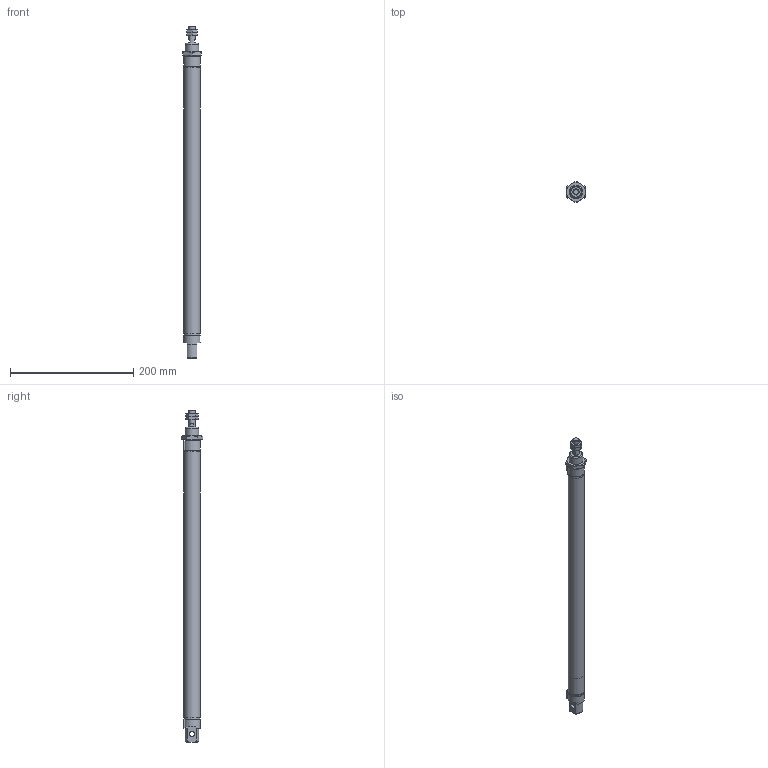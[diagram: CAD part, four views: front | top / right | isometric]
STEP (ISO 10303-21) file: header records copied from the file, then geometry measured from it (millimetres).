
FILE_DESCRIPTION( ( 'STEP AP214' ), '1' );
FILE_NAME( 'p:/temp/worker_14/temp/app_90_02018091616595351328055192d056f_000000_00_00_000000/format_0/MCMI-11-25-400(0_0).stp', '2018-09-16T14:59:54', ( '' ), ( '' ), ' ', 'PARTsolutions', ' ' );
FILE_SCHEMA( ( 'AUTOMOTIVE_DESIGN { 1 0 10303 214 1 1 1 1 }' ) );
Length unit declared in the file: millimetre
Products named in the file (5): MCMI-11-25-400(0_0); _MCMI-11-25-400-0_(0_b); _MCMI-11-25-400-0_(0_r); _MCMI-25_n; _MCMI-25_n2
Assembly tree (5 placements, depth 2):
  MCMI-11-25-400(0_0)
    _MCMI-11-25-400-0_(0_b)
    _MCMI-11-25-400-0_(0_r)
    _MCMI-25_n  x2
    _MCMI-25_n2
Bounding box: 30 x 34.64 x 539 mm (x, y, z)
Volume: 112369.9 mm3; surface area: 101287.6 mm2
Topology: 5 solids, 5 shells, 131 faces, 288 edges, 176 vertices
Faces by surface type: plane 54, cone 52, cylinder 22, torus 3
Full cylindrical faces by diameter (mm): 8 x1, 8.647 x2, 10 x2, 20.376 x1, 22 x1, 25 x2, 26.4 x1, 26.8 x2
Entity records: 3962 total; most frequent: CARTESIAN_POINT 771, DIRECTION 472, ORIENTED_EDGE 418, EDGE_CURVE 209, AXIS2_PLACEMENT_3D 205, EDGE_LOOP 150, VERTEX_POINT 144, FACE_OUTER_BOUND 120
